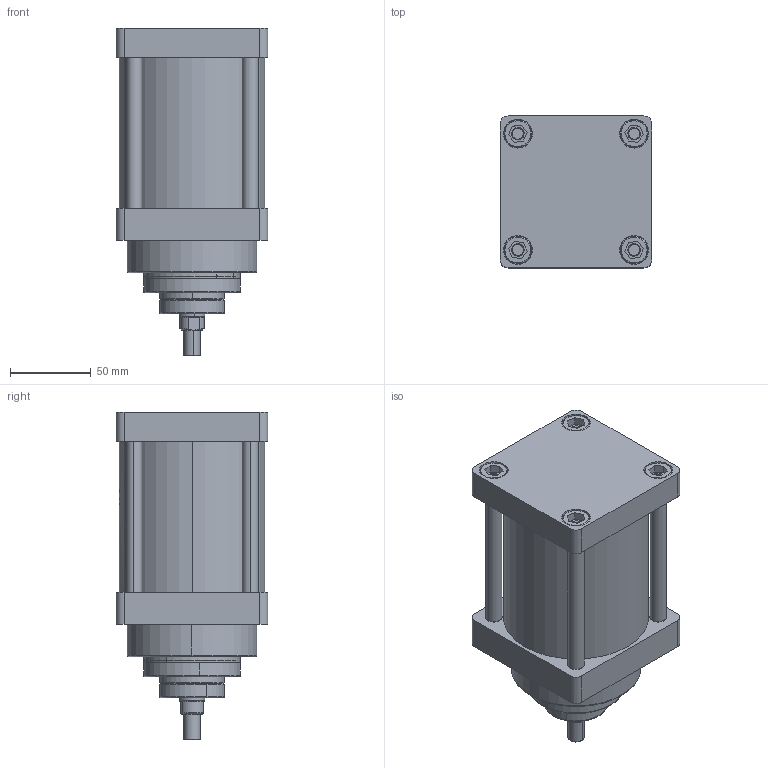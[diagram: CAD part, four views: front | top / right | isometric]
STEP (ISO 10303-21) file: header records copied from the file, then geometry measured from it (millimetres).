
FILE_DESCRIPTION (( 'STEP AP214' ), '1' );
FILE_NAME ('TLSK_3K_80_100.STEP', '2023-01-07T17:11:22', ( '' ), ( '' ), 'SwSTEP 2.0', 'SolidWorks 2021', '' );
FILE_SCHEMA (( 'AUTOMOTIVE_DESIGN' ));
Length unit declared in the file: millimetre
Products named in the file (19): 63_400_26boru_kapak_otto; 16_18_PAP_16_18_10_PAP; 40_35_boru_WEB; TLSK_3K_80_100; Kastas Seals-KO-32X2_5; KO-54X3; pap_60_65_12; 16_K_M尳_WEB; 80_90_alm_boru_WEB; K103-060; M8_SAPLAMA_100_WEB; 63_ON_KAPAK_OZEL; K52-16X20_5X3_6-4_8; CIVATA_WEB; pap_40_44_12; 63_ARKA_KAPAK_OZEL; 63_1600_50boru_kapak_teleskopik; 56_60_alm.boru_WEB; K103-040
Assembly tree (28 placements, depth 2):
  TLSK_3K_80_100
    40_35_boru_WEB
    16_K_M尳_WEB
    63_400_26boru_kapak_otto
    Kastas Seals-KO-32X2_5
    63_ON_KAPAK_OZEL
    63_ARKA_KAPAK_OZEL
    56_60_alm.boru_WEB
    63_1600_50boru_kapak_teleskopik
    K103-060
    pap_40_44_12
    pap_60_65_12
    K103-040
    KO-54X3
    80_90_alm_boru_WEB
    16_18_PAP_16_18_10_PAP
    K52-16X20_5X3_6-4_8
    M8_SAPLAMA_100_WEB  x4
    CIVATA_WEB  x8
Bounding box: 94 x 94 x 203.01 mm (x, y, z)
Volume: 578037.4 mm3; surface area: 263285.4 mm2
Topology: 28 solids, 28 shells, 1115 faces, 2663 edges, 1698 vertices
Faces by surface type: cylinder 383, plane 335, bspline 208, cone 167, torus 22
Entity records: 57598 total; most frequent: CARTESIAN_POINT 36998, ORIENTED_EDGE 4350, DIRECTION 3439, EDGE_CURVE 2175, VERTEX_POINT 1396, AXIS2_PLACEMENT_3D 1276, EDGE_LOOP 1015, VECTOR 887
